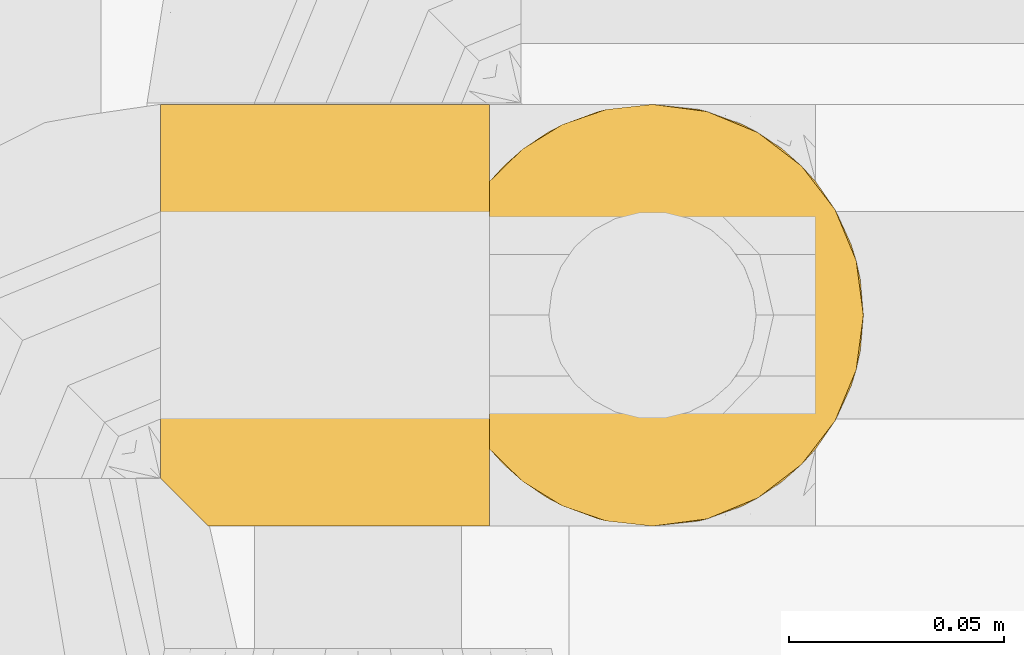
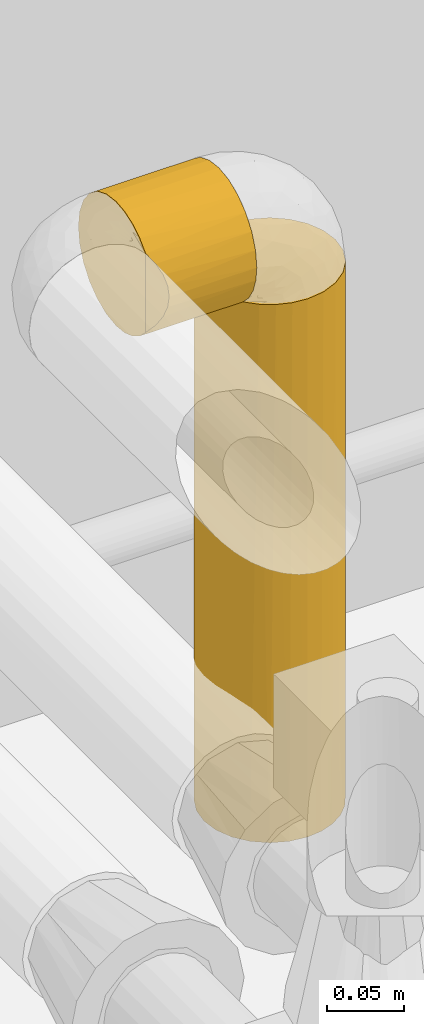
# One storey, part 29 of 94: 2 coverings.
"""IFC2X3 building model written with IfcOpenShell, lengths in millimetres."""

from ifc_helpers import new_model, entity, si_unit, converted_unit, derived_unit, direction, frame, origin, place, context, subcontext, project, spatial, faceted_brep, material, element, save


model = new_model("IFC2X3")

# Units and contexts
model_context = context("Model", 3, precision=0.01, world=origin(), true_north=direction((6.123031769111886e-17, 1.0)))
body_context = subcontext(model_context, "Body", "Model", "MODEL_VIEW")
ifc_project = project(units=[si_unit("LENGTHUNIT", "METRE", prefix="MILLI"), si_unit("AREAUNIT", "SQUARE_METRE"), si_unit("VOLUMEUNIT", "CUBIC_METRE"), converted_unit("PLANEANGLEUNIT", "DEGREE", entity("IfcRatioMeasure", 0.017453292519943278), si_unit("PLANEANGLEUNIT", "RADIAN"), dimensions=[0, 0, 0, 0, 0, 0, 0]), si_unit("MASSUNIT", "GRAM", prefix="KILO"), derived_unit("MASSDENSITYUNIT", [(si_unit("MASSUNIT", "GRAM", prefix="KILO"), 1), (si_unit("LENGTHUNIT", "METRE"), -3)]), derived_unit("IONCONCENTRATIONUNIT", [(si_unit("MASSUNIT", "GRAM", prefix="KILO"), 1), (si_unit("LENGTHUNIT", "METRE"), -3)]), derived_unit("MOMENTOFINERTIAUNIT", [(si_unit("LENGTHUNIT", "METRE"), 4)]), si_unit("TIMEUNIT", "SECOND"), si_unit("FREQUENCYUNIT", "HERTZ"), si_unit("THERMODYNAMICTEMPERATUREUNIT", "DEGREE_CELSIUS"), derived_unit("THERMALTRANSMITTANCEUNIT", [(si_unit("MASSUNIT", "GRAM", prefix="KILO"), 1), (si_unit("THERMODYNAMICTEMPERATUREUNIT", "KELVIN"), -1), (si_unit("TIMEUNIT", "SECOND"), -3)]), derived_unit("THERMALCONDUCTANCEUNIT", [(si_unit("MASSUNIT", "GRAM", prefix="KILO"), 1), (si_unit("THERMODYNAMICTEMPERATUREUNIT", "KELVIN"), -1), (si_unit("TIMEUNIT", "SECOND"), -3), (si_unit("LENGTHUNIT", "METRE"), 1)]), derived_unit("VOLUMETRICFLOWRATEUNIT", [(si_unit("LENGTHUNIT", "METRE"), 3), (si_unit("TIMEUNIT", "SECOND"), -1)]), derived_unit("MASSFLOWRATEUNIT", [(si_unit("MASSUNIT", "GRAM", prefix="KILO"), 1), (si_unit("TIMEUNIT", "SECOND"), -1)]), derived_unit("ROTATIONALFREQUENCYUNIT", [(si_unit("TIMEUNIT", "SECOND"), -1)]), si_unit("ELECTRICCURRENTUNIT", "AMPERE"), si_unit("ELECTRICVOLTAGEUNIT", "VOLT"), si_unit("POWERUNIT", "WATT"), si_unit("FORCEUNIT", "NEWTON", prefix="KILO"), si_unit("ILLUMINANCEUNIT", "LUX"), si_unit("LUMINOUSFLUXUNIT", "LUMEN"), si_unit("LUMINOUSINTENSITYUNIT", "CANDELA"), derived_unit("USERDEFINED", [(si_unit("MASSUNIT", "GRAM", prefix="KILO"), -1), (si_unit("LENGTHUNIT", "METRE"), -2), (si_unit("TIMEUNIT", "SECOND"), 3), (si_unit("LUMINOUSFLUXUNIT", "LUMEN"), 1)]), derived_unit("USERDEFINED", [(si_unit("MASSUNIT", "GRAM", prefix="KILO"), 1), (si_unit("TIMEUNIT", "SECOND"), -3), (si_unit("LENGTHUNIT", "METRE"), 3), (si_unit("ELECTRICCURRENTUNIT", "AMPERE"), -2)]), derived_unit("SOUNDPOWERUNIT", [(si_unit("MASSUNIT", "GRAM", prefix="KILO"), 1), (si_unit("TIMEUNIT", "SECOND"), -3), (si_unit("LENGTHUNIT", "METRE"), 2)]), derived_unit("SOUNDPRESSUREUNIT", [(si_unit("MASSUNIT", "GRAM", prefix="KILO"), 1), (si_unit("LENGTHUNIT", "METRE"), -1), (si_unit("TIMEUNIT", "SECOND"), -2)]), derived_unit("LINEARVELOCITYUNIT", [(si_unit("LENGTHUNIT", "METRE"), 1), (si_unit("TIMEUNIT", "SECOND"), -1)]), si_unit("PRESSUREUNIT", "PASCAL"), derived_unit("USERDEFINED", [(si_unit("MASSUNIT", "GRAM", prefix="KILO"), 1), (si_unit("LENGTHUNIT", "METRE"), -2), (si_unit("TIMEUNIT", "SECOND"), -2)]), derived_unit("LINEARFORCEUNIT", [(si_unit("MASSUNIT", "GRAM", prefix="KILO"), 1), (si_unit("TIMEUNIT", "SECOND"), -2)]), derived_unit("PLANARFORCEUNIT", [(si_unit("MASSUNIT", "GRAM", prefix="KILO"), 1), (si_unit("LENGTHUNIT", "METRE"), -1), (si_unit("TIMEUNIT", "SECOND"), -2)]), derived_unit("SPECIFICHEATCAPACITYUNIT", [(si_unit("THERMODYNAMICTEMPERATUREUNIT", "KELVIN"), -1), (si_unit("LENGTHUNIT", "METRE"), 2), (si_unit("TIMEUNIT", "SECOND"), -2)]), derived_unit("HEATINGVALUEUNIT", [(si_unit("LENGTHUNIT", "METRE"), 2), (si_unit("TIMEUNIT", "SECOND"), -2)]), derived_unit("VAPORPERMEABILITYUNIT", [(si_unit("LENGTHUNIT", "METRE"), -1), (si_unit("TIMEUNIT", "SECOND"), 1)]), derived_unit("DYNAMICVISCOSITYUNIT", [(si_unit("MASSUNIT", "GRAM", prefix="KILO"), 1), (si_unit("TIMEUNIT", "SECOND"), -1), (si_unit("LENGTHUNIT", "METRE"), -1)]), derived_unit("THERMALEXPANSIONCOEFFICIENTUNIT", [(si_unit("THERMODYNAMICTEMPERATUREUNIT", "KELVIN"), -1)]), derived_unit("MODULUSOFELASTICITYUNIT", [(si_unit("MASSUNIT", "GRAM", prefix="KILO"), 1), (si_unit("LENGTHUNIT", "METRE"), -1), (si_unit("TIMEUNIT", "SECOND"), -2)]), derived_unit("ISOTHERMALMOISTURECAPACITYUNIT", [(si_unit("LENGTHUNIT", "METRE"), 3), (si_unit("MASSUNIT", "GRAM", prefix="KILO"), -1)]), derived_unit("MOISTUREDIFFUSIVITYUNIT", [(si_unit("TIMEUNIT", "SECOND"), -1), (si_unit("LENGTHUNIT", "METRE"), 2)])], contexts=[model_context])

# Site, building, storey
site_placement = place(None, origin())
site = spatial("IfcSite", under=ifc_project, at=site_placement, Name="Default", CompositionType="ELEMENT")
building_placement = place(site_placement, origin())
building = spatial("IfcBuilding", under=site, at=building_placement, CompositionType="ELEMENT")
storey_placement = place(building_placement, origin())
storey = spatial("IfcBuildingStorey", under=building, at=storey_placement, Name="Niveau 0", CompositionType="ELEMENT", Elevation=0.0)

# Coverings
ifc_material = material(Name="Isolation - Laine minérale")
covering_1_placement = place(storey_placement, frame((-6974.340208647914, 9224.752407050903, 949.2734508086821)))
element("IfcCovering", 1, at=covering_1_placement, inside=storey, material=ifc_material, Name="Isolation des canalisations:Laine minérale", ObjectType="Isolation des canalisations:Laine minérale", PredefinedType="INSULATION", context=body_context, shape_type="Brep", body=[
    faceted_brep([(78.19216739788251, 95.12913031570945, 29.710646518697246), (78.19076836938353, 98.65739398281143, 39.95294145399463), (78.18929551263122, 99.85527223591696, 50.735733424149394), (78.1875586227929, 98.18120808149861, 63.4515129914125), (78.18594009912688, 93.2731003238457, 75.30073319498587), (78.18455024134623, 85.46542839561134, 85.47588925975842), (78.18348376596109, 75.29027223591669, 93.28356111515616), (78.18281335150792, 63.4410519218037, 98.19166882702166), (78.18258468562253, 50.72527223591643, 99.86573296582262), (78.18281335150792, 38.00949255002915, 98.19166882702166), (78.18348376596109, 26.160272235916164, 93.2835611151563), (78.18455024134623, 15.985116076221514, 85.47588925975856), (78.18594009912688, 8.17744414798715, 75.30073319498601), (78.1875586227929, 3.26933639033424, 63.451512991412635), (78.18929551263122, 1.5952722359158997, 50.73573342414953), (78.19076836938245, 2.793150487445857, 39.952941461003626), (78.19216739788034, 6.3214141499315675, 29.71064653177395), (78.1934268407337, 12.008762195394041, 20.490258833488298), (78.1944853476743, 19.578019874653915, 12.74092399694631), (78.19448534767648, 81.87252457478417, 12.740923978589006), (78.19342684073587, 89.44178226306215, 20.490258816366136), (1.5961710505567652, 93.2731003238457, 75.29027154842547), (1.5977895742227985, 98.18120808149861, 63.44105134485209), (1.599526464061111, 99.85527223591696, 50.725271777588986), (1.6012633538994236, 98.18120808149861, 38.00949221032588), (1.6028818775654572, 93.2731003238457, 26.16027200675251), (1.6042717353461, 85.46542839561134, 15.985115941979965), (1.6053382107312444, 75.29027223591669, 8.177444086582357), (1.6060086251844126, 63.4410519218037, 3.2693363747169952), (1.606237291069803, 50.72527223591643, 1.5952722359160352), (1.6060735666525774, 39.939150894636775, 2.7938995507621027), (1.605591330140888, 29.69397406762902, 6.3243555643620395), (1.6048140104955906, 20.471664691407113, 12.015116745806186), (1.603779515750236, 12.7217437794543, 19.588658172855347), (1.5952722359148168, 12.728801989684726, 81.87049822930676), (1.594238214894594, 20.478248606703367, 89.44057151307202), (1.5934612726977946, 29.699002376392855, 95.12856939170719), (1.5929792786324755, 39.94184619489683, 98.65725045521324), (1.5928156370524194, 50.72527223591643, 99.85527131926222), (1.5930443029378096, 63.4410519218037, 98.18120718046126), (1.5937147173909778, 75.29027223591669, 93.27309946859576), (1.5947811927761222, 85.46542839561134, 85.46542761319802), (12.008131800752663, 2.3168621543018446, 42.33725166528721), (9.86474802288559, 4.460435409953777, 34.1939545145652), (6.362336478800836, 7.963025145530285, 26.53610765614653), (12.729526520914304, 1.5952722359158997, 50.726792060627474), (73.43228131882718, 26.52647933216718, 7.977916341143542), (69.92703880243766, 34.18635003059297, 4.472082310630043), (67.78180710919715, 42.33244230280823, 2.3264886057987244), (67.0596531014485, 50.72527223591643, 1.6042127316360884), (67.78180711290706, 59.11810216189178, 2.3264886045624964), (69.92703880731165, 67.26419442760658, 4.472082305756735), (73.43228132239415, 74.9240651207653, 7.977916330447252), (6.357098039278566, 7.967137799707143, 74.92300514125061), (9.862104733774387, 4.462309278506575, 67.26408957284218), (12.007265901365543, 2.3173376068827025, 59.11887823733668)], [[[0, 1, 2, 3, 4, 5, 6, 7, 8, 9, 10, 11, 12, 13, 14, 15, 16, 17, 18, 19, 20]], [[21, 22, 23, 24, 25, 26, 27, 28, 29, 30, 31, 32, 33, 34, 35, 36, 37, 38, 39, 40, 41]], [[42, 43, 15]], [[44, 33, 17]], [[43, 44, 16]], [[45, 42, 14]], [[14, 42, 15]], [[15, 43, 16]], [[44, 17, 16]], [[33, 18, 17]], [[46, 32, 31]], [[47, 31, 30]], [[48, 30, 29]], [[46, 18, 32]], [[48, 47, 30]], [[49, 48, 29]], [[46, 31, 47]], [[32, 18, 33]], [[50, 49, 29]], [[50, 29, 28]], [[51, 28, 27]], [[51, 50, 28]], [[19, 52, 27]], [[51, 27, 52]], [[27, 26, 19]], [[20, 26, 25]], [[0, 25, 24]], [[1, 24, 23]], [[20, 25, 0]], [[0, 24, 1]], [[23, 2, 1]], [[26, 20, 19]], [[3, 2, 23, 22]], [[4, 3, 22, 21]], [[21, 41, 5, 4]], [[7, 6, 40, 39]], [[8, 7, 39, 38]], [[41, 40, 6, 5]], [[8, 38, 37]], [[9, 37, 36]], [[10, 36, 35]], [[8, 37, 9]], [[9, 36, 10]], [[35, 11, 10]], [[35, 34, 11]], [[34, 53, 12]], [[54, 55, 13]], [[53, 54, 12]], [[12, 54, 13]], [[14, 13, 55]], [[45, 14, 55]], [[34, 12, 11]], [[49, 50, 51, 52, 19, 18, 46, 47, 48]], [[33, 44, 43, 42, 45, 55, 54, 53, 34]]]),
])
covering_2_placement = place(storey_placement, frame((-6908.875827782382, 9224.752406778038, 963.6084257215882)))
element("IfcCovering", 2, at=covering_2_placement, inside=storey, material=ifc_material, Name="Isolation des canalisations:Laine minérale", ObjectType="Isolation des canalisations:Laine minérale", PredefinedType="INSULATION", context=body_context, shape_type="Brep", body=[
    faceted_brep([(8.190747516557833, 26.160272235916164, -426.6097933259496), (3.2826397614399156, 38.00949255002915, -426.60995109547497), (1.608575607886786, 50.72527223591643, -426.6100049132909), (3.2826397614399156, 63.4410519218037, -426.60995111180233), (8.190747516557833, 75.29027223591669, -426.60979335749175), (15.9984194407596, 85.46542839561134, -426.6095424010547), (26.173575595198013, 93.2731003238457, -426.6092153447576), (38.022795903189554, 98.18120808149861, -426.6088344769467), (50.738575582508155, 99.85527223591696, -426.6084257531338), (61.523815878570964, 98.6568431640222, -426.60807908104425), (71.76823011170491, 95.1269673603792, -426.60774979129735), (80.990031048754, 89.43710945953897, -426.6074533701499), (88.73979703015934, 81.86470169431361, -426.6072042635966), (88.7397970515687, 19.585842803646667, -426.60720422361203), (80.99003106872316, 12.013435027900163, -426.60745332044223), (71.76823012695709, 6.323577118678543, -426.60774973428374), (61.52381588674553, 2.7937013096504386, -426.6080790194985), (50.73857558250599, 1.5952722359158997, -426.6084256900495), (38.022795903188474, 3.26933639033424, -426.608834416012), (26.173575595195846, 8.17744414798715, -426.609215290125), (15.998419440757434, 15.985116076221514, -426.6095423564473), (12.728883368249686, 19.579509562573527, -1.5952722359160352), (20.478300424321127, 12.00965202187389, -1.5950231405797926), (29.698957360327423, 6.321826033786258, -1.5947267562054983), (39.941655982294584, 2.7932553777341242, -1.5943975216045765), (50.72491429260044, 1.5952725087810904, -1.5940509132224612), (63.44069397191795, 3.269336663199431, -1.593642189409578), (75.28991427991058, 8.17744442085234, -1.5932613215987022), (85.46507043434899, 15.985116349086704, -1.5929342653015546), (93.27274235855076, 26.160272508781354, -1.592683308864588), (98.18085011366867, 38.009492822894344, -1.5925255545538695), (99.8549142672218, 50.725272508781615, -1.5924717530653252), (98.18085011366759, 63.44105219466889, -1.59252557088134), (93.27274235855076, 75.29027250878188, -1.5926833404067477), (85.46507043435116, 85.46542866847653, -1.5929343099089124), (75.28991427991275, 93.27310059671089, -1.593261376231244), (63.44069397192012, 98.1812083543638, -1.5936422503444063), (50.7249142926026, 99.85527250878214, -1.594050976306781), (39.94165598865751, 98.65728909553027, -1.5943975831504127), (29.698957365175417, 95.12871844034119, -1.5947268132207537), (20.47830041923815, 89.44089244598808, -1.5950231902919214), (12.728883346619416, 81.87103488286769, -1.5952722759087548), (7.967188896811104, 26.527736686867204, -6.357770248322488), (4.462333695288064, 34.1872570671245, -9.863216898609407), (2.3173439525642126, 42.332916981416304, -12.00856861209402), (1.5952722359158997, 50.725272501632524, -12.73076218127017), (2.3173440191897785, 59.11762787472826, -12.008568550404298), (4.462333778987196, 67.26328763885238, -9.863216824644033), (7.967188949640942, 74.92280787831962, -6.357770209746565), (97.00253432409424, 67.25943217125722, -418.3442013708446), (99.14649573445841, 59.115610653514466, -416.20017104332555), (99.86821785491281, 50.725272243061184, -415.47842572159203), (93.49932544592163, 74.91746282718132, -421.84752285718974), (99.14649573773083, 42.33493383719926, -416.20017103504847), (97.00253433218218, 34.191112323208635, -418.3442013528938), (93.49932546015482, 26.533081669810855, -421.8475228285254)], [[[0, 1, 2, 3, 4, 5, 6, 7, 8, 9, 10, 11, 12, 13, 14, 15, 16, 17, 18, 19, 20]], [[21, 22, 23, 24, 25, 26, 27, 28, 29, 30, 31, 32, 33, 34, 35, 36, 37, 38, 39, 40, 41]], [[25, 24, 17]], [[24, 23, 18]], [[19, 23, 22]], [[17, 24, 18]], [[19, 18, 23]], [[20, 19, 22]], [[22, 21, 20]], [[21, 42, 0]], [[43, 44, 1]], [[42, 43, 0]], [[0, 43, 1]], [[2, 1, 44]], [[45, 2, 44]], [[21, 0, 20]], [[46, 47, 3]], [[48, 41, 4]], [[47, 48, 4]], [[45, 46, 2]], [[2, 46, 3]], [[47, 4, 3]], [[41, 5, 4]], [[6, 40, 39]], [[7, 39, 38]], [[8, 38, 37]], [[5, 40, 6]], [[6, 39, 7]], [[38, 8, 7]], [[40, 5, 41]], [[9, 37, 36]], [[10, 36, 35]], [[11, 35, 34]], [[8, 37, 9]], [[9, 36, 10]], [[35, 11, 10]], [[34, 12, 11]], [[49, 33, 32]], [[32, 31, 50]], [[51, 50, 31]], [[52, 12, 33]], [[50, 49, 32]], [[52, 33, 49]], [[33, 12, 34]], [[53, 51, 31]], [[53, 31, 30]], [[54, 30, 29]], [[54, 53, 30]], [[13, 55, 29]], [[54, 29, 55]], [[29, 28, 13]], [[14, 28, 27]], [[15, 27, 26]], [[16, 26, 25]], [[15, 14, 27]], [[17, 16, 25]], [[15, 26, 16]], [[28, 14, 13]], [[12, 52, 49, 50, 51, 53, 54, 55, 13]], [[44, 43, 42, 21, 41, 48, 47, 46, 45]]]),
])

save(model, "model.ifc")
